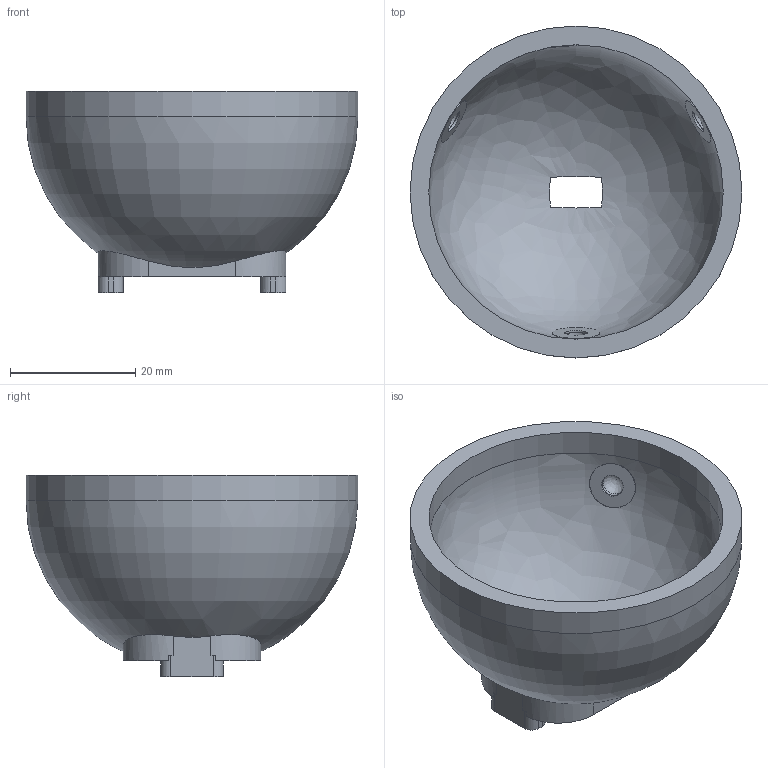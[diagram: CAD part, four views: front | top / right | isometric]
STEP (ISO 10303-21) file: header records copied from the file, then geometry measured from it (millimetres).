
FILE_DESCRIPTION(('Open CASCADE Model'),'2;1');
FILE_NAME('Open CASCADE Shape Model','2026-05-31T19:43:30',('Author'),( 'Open CASCADE'),'Open CASCADE STEP processor 7.6','Open CASCADE 7.6' ,'Unknown');
FILE_SCHEMA(('AP242_MANAGED_MODEL_BASED_3D_ENGINEERING_MIM_LF. {1 0 10303 442 1 1 4 }'));
Length unit declared in the file: millimetre
Products named in the file (1): Open CASCADE STEP translator 7.6 9
Bounding box: 53 x 53 x 32.1 mm (x, y, z)
Volume: 14051 mm3; surface area: 10133.7 mm2
Topology: 1 solids, 1 shells, 80 faces, 209 edges, 137 vertices
Faces by surface type: plane 35, cylinder 31, revolution 8, bspline 4, cone 2
Full cylindrical faces by diameter (mm): 2.05 x2, 3.57 x3, 3.572 x3, 7.57 x3, 47 x1, 53 x1
Entity records: 8809 total; most frequent: CARTESIAN_POINT 4691, DIRECTION 765, ORIENTED_EDGE 408, PCURVE 408, DEFINITIONAL_REPRESENTATION 408, LINE 403, VECTOR 403, EDGE_CURVE 204
